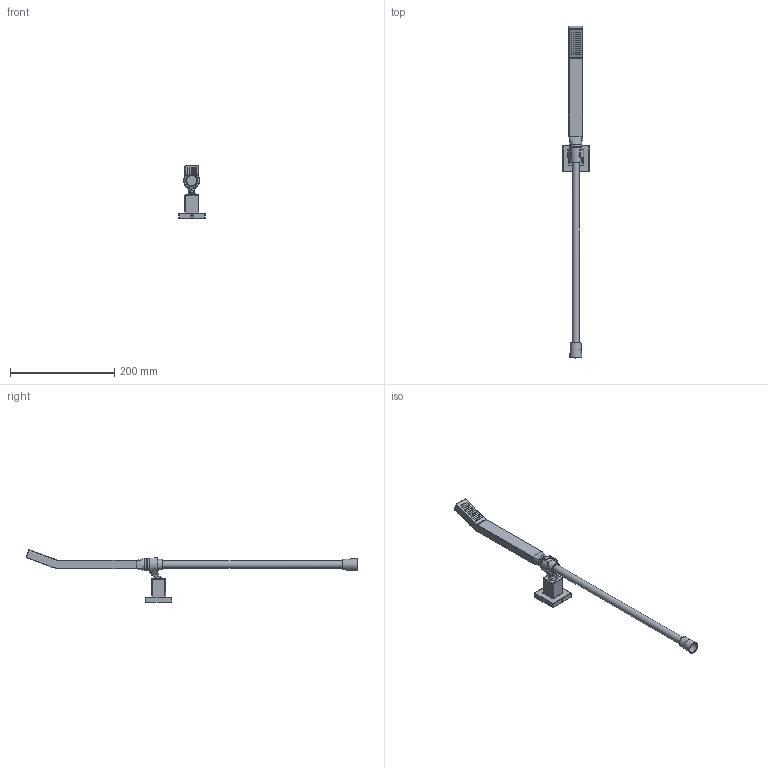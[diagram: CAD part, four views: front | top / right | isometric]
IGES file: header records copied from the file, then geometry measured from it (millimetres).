
Global section: file name: 5908223780806_igs; native system: Autodesk Inventor 2020; preprocessor: unknown; date: 20200727.140319; units: millimetre
Bounding box: 50.31 x 637.57 x 100.49 mm (x, y, z)
Surface area: 59945.9 mm2 (no closed solid volume)
Topology: 0 solids, 0 shells, 302 faces, 4524 edges, 4413 vertices
Faces by surface type: bspline 181, revolution 121
